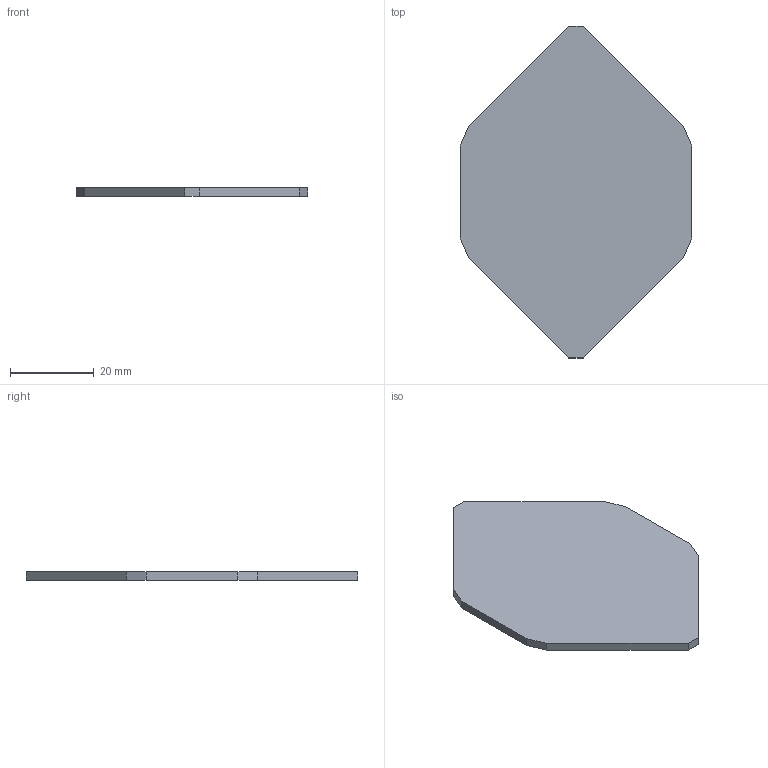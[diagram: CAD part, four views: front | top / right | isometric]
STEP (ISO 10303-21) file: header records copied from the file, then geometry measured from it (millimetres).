
FILE_DESCRIPTION (( 'STEP AP214' ), '1' );
FILE_NAME ('MONO_038-p209_02 (Option 1- Folded) FLAT PATTERN.STEP', '2026-03-24T00:40:38', ( '' ), ( '' ), 'SwSTEP 2.0', 'SolidWorks 2024', '' );
FILE_SCHEMA (( 'AUTOMOTIVE_DESIGN' ));
Length unit declared in the file: millimetre
Products named in the file (1): MONO_038-p209_02 (Option 1- Folded) FLAT PATTERN
Bounding box: 55.4 x 79.42 x 2 mm (x, y, z)
Volume: 6074.1 mm3; surface area: 6488.2 mm2
Topology: 1 solids, 1 shells, 14 faces, 36 edges, 24 vertices
Faces by surface type: plane 14
Entity records: 443 total; most frequent: CARTESIAN_POINT 75, ORIENTED_EDGE 72, DIRECTION 66, LINE 36, EDGE_CURVE 36, VECTOR 36, VERTEX_POINT 24, AXIS2_PLACEMENT_3D 15
